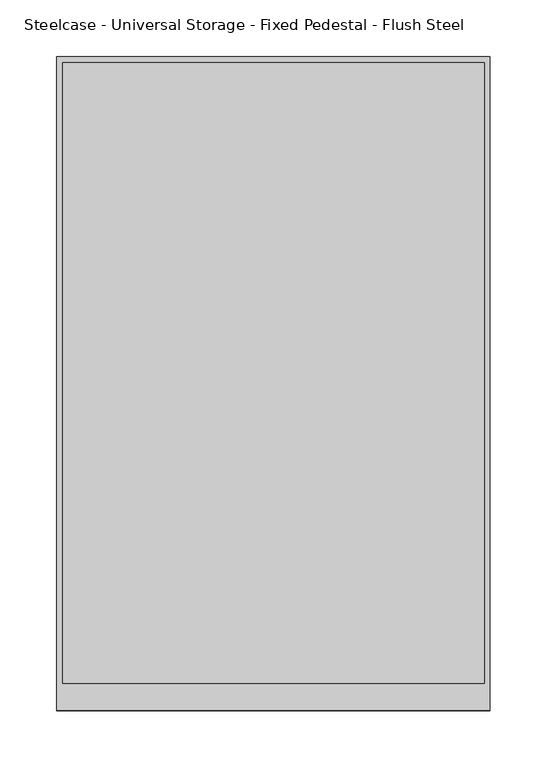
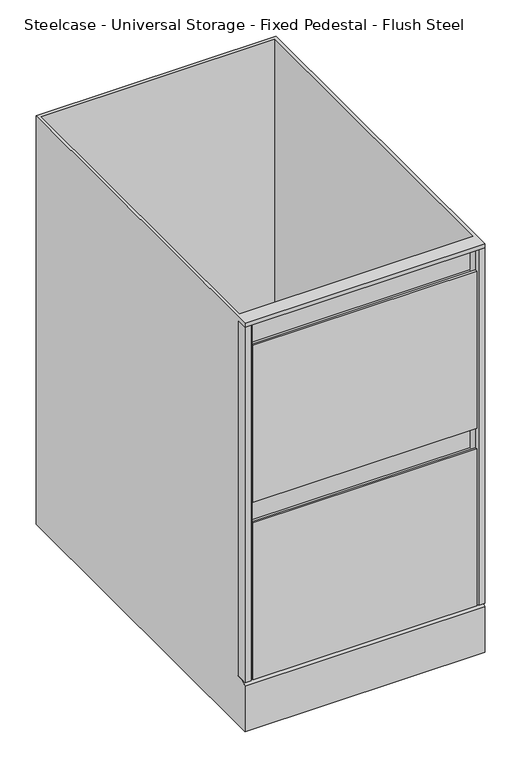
"""IFC4 building model written with IfcOpenShell, lengths in millimetres: furniture geometry, Steelcase - Universal Storage - Fixed Pedestal - Flush Steel : 2 File - 27H x 22 5/8D."""

import ifcopenshell
import ifcopenshell.guid

model = None  # the IFC model being written
_history = None  # IfcOwnerHistory: only IFC2X3 demands one
_inside = {}  # id of a spatial element -> (the spatial element, [elements in it])
_under = {}  # id of a project, library or spatial element -> (it, [spatial elements below it])
_declared = {}  # id of a project -> (the project, [libraries it declares])
_typed = {}  # id of a type object -> (the type object, [elements of that type])
_made_of = {}  # id of a material, layer set ... -> (it, [elements and type objects made of it])


def new_model(schema):
    """Start an empty IFC model of exactly this schema.

    Asked for "IFC4X3", IfcOpenShell would pick the latest addendum, in which some entities
    have other attributes; the version numbers below select the first issue.
    IFC2X3 requires an IfcOwnerHistory on every rooted entity: one is made here for all.
    """
    global model, _history
    if schema == "IFC4X3":
        model = ifcopenshell.file(schema_version=(4, 3, 0, 0))
    else:
        model = ifcopenshell.file(schema=schema)
    _inside.clear()
    _under.clear()
    _declared.clear()
    _typed.clear()
    _made_of.clear()
    _history = None
    if model.schema == "IFC2X3":
        org = make("IfcOrganization", Name="unknown")
        user = make(
            "IfcPersonAndOrganization",
            ThePerson=make("IfcPerson", FamilyName="unknown"),
            TheOrganization=org,
        )
        app = make(
            "IfcApplication",
            ApplicationDeveloper=org,
            Version="unknown",
            ApplicationFullName="unknown",
            ApplicationIdentifier="unknown",
        )
        _history = make(
            "IfcOwnerHistory",
            OwningUser=user,
            OwningApplication=app,
            ChangeAction="ADDED",
            CreationDate=0,
        )
    return model


def make(cls, **values):
    """One entity of the class cls with the attributes given. An attribute that is None is left unset."""
    return model.create_entity(
        cls, **{name: value for name, value in values.items() if value is not None}
    )


def rooted(cls, **values):
    """An entity with a GlobalId (a new one), such as an element, a storey or a relation."""
    return make(cls, GlobalId=ifcopenshell.guid.new(), OwnerHistory=_history, **values)


def si_unit(unit_type, name, prefix=None):
    """IfcSIUnit, for example si_unit("LENGTHUNIT", "METRE", prefix="MILLI")."""
    return make("IfcSIUnit", UnitType=unit_type, Prefix=prefix, Name=name)


def assignment(units):
    """IfcUnitAssignment: the units of a project."""
    return None if units is None else make("IfcUnitAssignment", Units=units)


def point(xyz):
    """IfcCartesianPoint."""
    return None if xyz is None else make("IfcCartesianPoint", Coordinates=xyz)


def direction(xyz):
    """IfcDirection."""
    return None if xyz is None else make("IfcDirection", DirectionRatios=xyz)


def frame(location, z_axis=None, x_axis=None):
    """IfcAxis2Placement3D, a coordinate frame: its origin and axes. An axis left out is left unset."""
    return make(
        "IfcAxis2Placement3D",
        Location=point(location),
        Axis=direction(z_axis),
        RefDirection=direction(x_axis),
    )


def origin():
    """The frame at (0, 0, 0) with its axes left unset."""
    return frame((0.0, 0.0, 0.0))


def place(relative_to, where):
    """IfcLocalPlacement: puts the frame where relative to a parent placement (None: the world)."""
    return make(
        "IfcLocalPlacement", PlacementRelTo=relative_to, RelativePlacement=where
    )


def context(
    kind, dimensions, precision=None, world=None, true_north=None, identifier=None
):
    """IfcGeometricRepresentationContext, for example the 3D "Model" context."""
    return make(
        "IfcGeometricRepresentationContext",
        ContextIdentifier=identifier,
        ContextType=kind,
        CoordinateSpaceDimension=dimensions,
        Precision=precision,
        WorldCoordinateSystem=world,
        TrueNorth=true_north,
    )


def project(units=None, contexts=None):
    """IfcProject with its units and contexts."""
    return rooted(
        "IfcProject",
        Name="project",
        RepresentationContexts=contexts,
        UnitsInContext=assignment(units),
    )


def spatial(cls, under=None, at=None, **own):
    """A site, building, storey or space (cls), placed at a placement, below another one or the project."""
    s = rooted(cls, ObjectPlacement=at, **own)
    if under is not None:
        _under.setdefault(under.id(), (under, []))[1].append(s)
    return s


def polyline(points):
    """IfcPolyline through the points."""
    return make("IfcPolyline", Points=[point(p) for p in points])


def outline(outer, holes=None, kind="AREA"):
    """IfcArbitraryClosedProfileDef: a profile drawn as a closed curve; with holes, ...WithVoids."""
    if holes is None:
        return make("IfcArbitraryClosedProfileDef", ProfileType=kind, OuterCurve=outer)
    return make(
        "IfcArbitraryProfileDefWithVoids",
        ProfileType=kind,
        OuterCurve=outer,
        InnerCurves=holes,
    )


def extrude(swept, where, along, depth):
    """IfcExtrudedAreaSolid: the profile swept, set in the frame where, extruded along a direction by depth."""
    return make(
        "IfcExtrudedAreaSolid",
        SweptArea=swept,
        Position=where,
        ExtrudedDirection=direction(along),
        Depth=depth,
    )


def faces_of(points, faces, orient=None, outer=None):
    """IfcFace entities. A face is a list of loops; a loop is a list of indices into points, from 0.

    orient and outer hold one flag for each loop. By default every Orientation is true, the
    first loop of a face is its IfcFaceOuterBound and the others are IfcFaceBound.
    """
    made = []
    for i, loops in enumerate(faces):
        bounds = []
        for j, loop in enumerate(loops):
            is_outer = j == 0 if outer is None else outer[i][j]
            bounds.append(
                make(
                    "IfcFaceOuterBound" if is_outer else "IfcFaceBound",
                    Bound=make("IfcPolyLoop", Polygon=[points[k] for k in loop]),
                    Orientation=True if orient is None else orient[i][j],
                )
            )
        made.append(make("IfcFace", Bounds=bounds))
    return made


def faceted_brep(points, faces, orient=None, outer=None, voids=None):
    """IfcFacetedBrep: a solid bounded by flat faces; with voids (closed shells), ...WithVoids."""
    shared = [point(p) for p in points]
    hull = make("IfcClosedShell", CfsFaces=faces_of(shared, faces, orient, outer))
    if voids is None:
        return make("IfcFacetedBrep", Outer=hull)
    return make(
        "IfcFacetedBrepWithVoids",
        Outer=hull,
        Voids=[
            make(cls, CfsFaces=faces_of(shared, fs, o, b)) for cls, fs, o, b in voids
        ],
    )


def shape(context_of_items, identifier, shape_type, items):
    """IfcShapeRepresentation: the items that make up one representation, for example the "Body"."""
    return make(
        "IfcShapeRepresentation",
        ContextOfItems=context_of_items,
        RepresentationIdentifier=identifier,
        RepresentationType=shape_type,
        Items=items,
    )


def source(mapping_origin, context_of_items, identifier, shape_type, items):
    """IfcRepresentationMap: a shape defined once, which mapped items show again and again."""
    return make(
        "IfcRepresentationMap",
        MappingOrigin=mapping_origin,
        MappedRepresentation=shape(context_of_items, identifier, shape_type, items),
    )


def transform(
    local_origin,
    x_axis=None,
    y_axis=None,
    z_axis=None,
    scale=None,
    scale2=None,
    scale3=None,
    uniform=True,
):
    """IfcCartesianTransformationOperator3D, or its non-uniform kind. x_axis, y_axis, z_axis: its Axis1, 2, 3."""
    if uniform:
        return make(
            "IfcCartesianTransformationOperator3D",
            Axis1=direction(x_axis),
            Axis2=direction(y_axis),
            LocalOrigin=point(local_origin),
            Scale=scale,
            Axis3=direction(z_axis),
        )
    return make(
        "IfcCartesianTransformationOperator3DnonUniform",
        Axis1=direction(x_axis),
        Axis2=direction(y_axis),
        LocalOrigin=point(local_origin),
        Scale=scale,
        Axis3=direction(z_axis),
        Scale2=scale2,
        Scale3=scale3,
    )


def mapped(mapping_source, mapping_target):
    """IfcMappedItem: shows the shape of a source again, moved by a transform."""
    return make(
        "IfcMappedItem", MappingSource=mapping_source, MappingTarget=mapping_target
    )


def made_of(thing, what):
    """Note that an element or type object is made of a material, layer set ...; save() writes the relation."""
    if what is not None:
        _made_of.setdefault(what.id(), (what, []))[1].append(thing)
    return thing


def element(
    cls,
    number,
    at=None,
    inside=None,
    cuts=None,
    type_object=None,
    material=None,
    context=None,
    identifier="Body",
    shape_type=None,
    held_by="IfcProductDefinitionShape",
    body=None,
    shapes=None,
    **own,
):
    """One element of the class cls, such as IfcWall. Its Tag is "e" and its number.

    at: its placement. inside: the storey or other place that contains it. cuts: it is an
    opening in that element (IfcRelVoidsElement). A single representation is given by context,
    identifier, shape_type and body (its items); several are given by shapes. held_by: the class
    of the entity that holds the representations. save() writes the other relations.
    """
    e = rooted(cls, Tag="e%d" % number, ObjectPlacement=at, **own)
    if body is not None:
        shapes = [shape(context, identifier, shape_type, body)]
    if shapes is not None:
        e.Representation = make(held_by, Representations=shapes)
    if inside is not None:
        _inside.setdefault(inside.id(), (inside, []))[1].append(e)
    if cuts is not None:
        rooted(
            "IfcRelVoidsElement", RelatingBuildingElement=cuts, RelatedOpeningElement=e
        )
    if type_object is not None:
        _typed.setdefault(type_object.id(), (type_object, []))[1].append(e)
    return made_of(e, material)


def aggregate(whole, parts):
    """IfcRelAggregates: a whole, such as a stair, and the parts it consists of."""
    return rooted("IfcRelAggregates", RelatingObject=whole, RelatedObjects=parts)


def save(model, path):
    """Write the relations noted so far, then the file.

    IfcRelAggregates (storeys below a building ...), IfcRelContainedInSpatialStructure (elements
    in a storey), IfcRelDefinesByType, IfcRelAssociatesMaterial and IfcRelDeclares: one each for
    every whole, place, type object, material and project.
    """
    for whole, parts in _under.values():
        aggregate(whole, parts)
    for where, things in _inside.values():
        rooted(
            "IfcRelContainedInSpatialStructure",
            RelatedElements=things,
            RelatingStructure=where,
        )
    for kind, things in _typed.values():
        rooted("IfcRelDefinesByType", RelatedObjects=things, RelatingType=kind)
    for what, things in _made_of.values():
        rooted("IfcRelAssociatesMaterial", RelatedObjects=things, RelatingMaterial=what)
    for by, libraries in _declared.values():
        rooted("IfcRelDeclares", RelatingContext=by, RelatedDefinitions=libraries)
    model.write(path)


def steelcase_universal_storage_fixed_pedestal_flush_steel_96aca7d6(model_context):
    return source(origin(), model_context, "Body", "SolidModel", [
        extrude(outline(polyline([(368.3000121, 0.0), (12.7000004, 0.0), (12.7000004, 3.1750001), (368.3000121, 3.1750001), (368.3000121, 0.0)])), frame((0.0, 0.0, 381.0000363), z_axis=(0.0, 0.0, 1.0), x_axis=(1.0, 0.0, 0.0)), (0.0, 0.0, 1.0), 263.5249394),
        extrude(outline(polyline([(368.3000121, 3.1750001), (12.7000004, 3.1750001), (12.7000004, 19.0495469), (368.3000121, 19.0495469), (368.3000121, 3.1750001)])), frame((0.0, 0.0, 82.550003), z_axis=(0.0, 0.0, 1.0), x_axis=(1.0, 0.0, 0.0)), (0.0, 0.0, 1.0), 254.000003),
        extrude(outline(polyline([(368.3000121, 3.1750001), (12.7000004, 3.1750001), (12.7000004, 19.0495469), (368.3000121, 19.0495469), (368.3000121, 3.1750001)])), frame((0.0, 0.0, 381.0000363), z_axis=(0.0, 0.0, 1.0), x_axis=(1.0, 0.0, 0.0)), (0.0, 0.0, 1.0), 139.8269637),
        extrude(outline(polyline([(368.3000121, 3.1750001), (12.7000004, 3.1750001), (12.7000004, 19.0495469), (368.3000121, 19.0495469), (368.3000121, 3.1750001)])), frame((0.0, 0.0, 530.2250121), z_axis=(0.0, 0.0, 1.0), x_axis=(1.0, 0.0, 0.0)), (0.0, 0.0, 1.0), 104.7749637),
        extrude(outline(polyline([(368.3000121, 0.0), (12.7000004, 0.0), (12.7000004, 3.1750001), (368.3000121, 3.1750001), (368.3000121, 0.0)])), frame((0.0, 0.0, 82.550003), z_axis=(0.0, 0.0, 1.0), x_axis=(1.0, 0.0, 0.0)), (0.0, 0.0, 1.0), 263.5249849),
        faceted_brep([(381.0, 0.0, 679.4500242), (381.0, 19.0495469, 679.4500242), (381.0, 19.0495469, 82.550003), (381.0, 6.350003, 82.550003), (381.0, 0.0, 76.2), (381.0, 0.0, 0.0), (381.0, 574.802, 0.0), (381.0, 574.802, 685.8), (381.0, 0.0, 685.8), (0.0, 0.0, 679.4500242), (0.0, 0.0, 685.8), (0.0, 574.802, 685.8), (0.0, 574.802, 0.0), (0.0, 0.0, 0.0), (0.0, 0.0, 76.2), (0.0, 6.350003, 82.550003), (0.0, 19.0495469, 82.550003), (0.0, 19.0495469, 679.4500242), (5.08, 569.722, 685.8), (375.92, 569.722, 685.8), (375.92, 24.1295469, 685.8), (5.08, 24.1295469, 685.8), (375.92, 569.722, 82.550003), (5.08, 569.722, 82.550003), (5.08, 24.1295469, 82.550003), (375.92, 24.1295469, 82.550003)], [[[0, 1, 2, 3, 4, 5, 6, 7, 8]], [[9, 10, 11, 12, 13, 14, 15, 16, 17]], [[1, 0, 9, 17]], [[2, 1, 17, 16]], [[2, 16, 15, 3]], [[13, 5, 4, 14]], [[6, 5, 13, 12]], [[7, 6, 12, 11]], [[8, 7, 11, 10], [18, 19, 20, 21]], [[0, 8, 10, 9]], [[4, 3, 15, 14]], [[22, 23, 24, 25]], [[23, 22, 19, 18]], [[24, 23, 18, 21]], [[25, 24, 21, 20]], [[22, 25, 20, 19]]]),
        extrude(outline(polyline([(12.7000004, 19.0495469), (12.7000004, 3.1750001), (9.5250003, 0.0), (0.0, 0.0), (0.0, 19.0495469), (12.7000004, 19.0495469)])), frame((0.0, 0.0, 82.550003), z_axis=(0.0, 0.0, 1.0), x_axis=(1.0, 0.0, 0.0)), (0.0, 0.0, 1.0), 596.9000212),
        extrude(outline(polyline([(381.0000125, 19.0495469), (381.0000125, 0.0), (371.4750122, 0.0), (368.3000121, 3.1750001), (368.3000121, 19.0495469), (381.0000125, 19.0495469)])), frame((0.0, 0.0, 82.550003), z_axis=(0.0, 0.0, 1.0), x_axis=(1.0, 0.0, 0.0)), (0.0, 0.0, 1.0), 596.9000212),
    ])


if __name__ == "__main__":
    model = new_model("IFC4")
    model_context = context("Model", 3, world=origin())
    ifc_project = project(units=[si_unit("LENGTHUNIT", "METRE", prefix="MILLI")], contexts=[model_context])
    site = spatial("IfcSite", under=ifc_project)
    building = spatial("IfcBuilding", under=site)
    placement = place(None, origin())
    steelcase_universal_storage_fixed_pedestal_flush_steel_shape = steelcase_universal_storage_fixed_pedestal_flush_steel_96aca7d6(model_context)
    element("IfcFurniture", 1, ObjectType="Steelcase - Universal Storage - Fixed Pedestal - Flush Steel : 2 File - 27H x 22 5/8D", at=placement, inside=building, context=model_context, shape_type="MappedRepresentation", body=[
        mapped(steelcase_universal_storage_fixed_pedestal_flush_steel_shape, transform((0.0, 0.0, 0.0), x_axis=(1.0, 0.0, 0.0), y_axis=(0.0, 1.0, 0.0), z_axis=(0.0, 0.0, 1.0))),
    ])
    save(model, "model.ifc")
